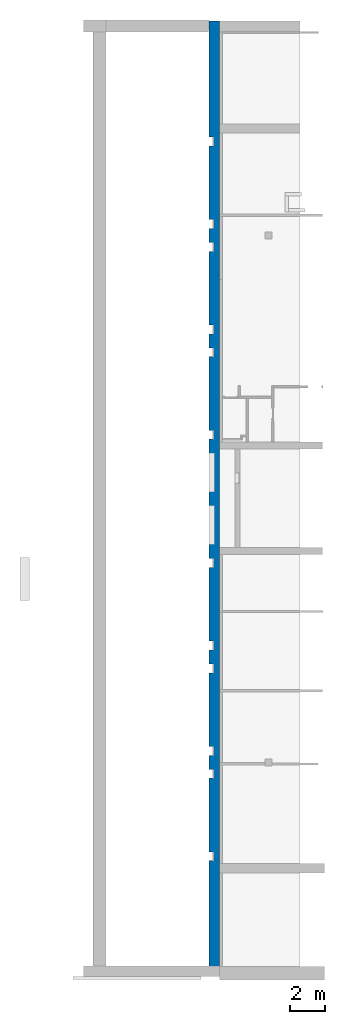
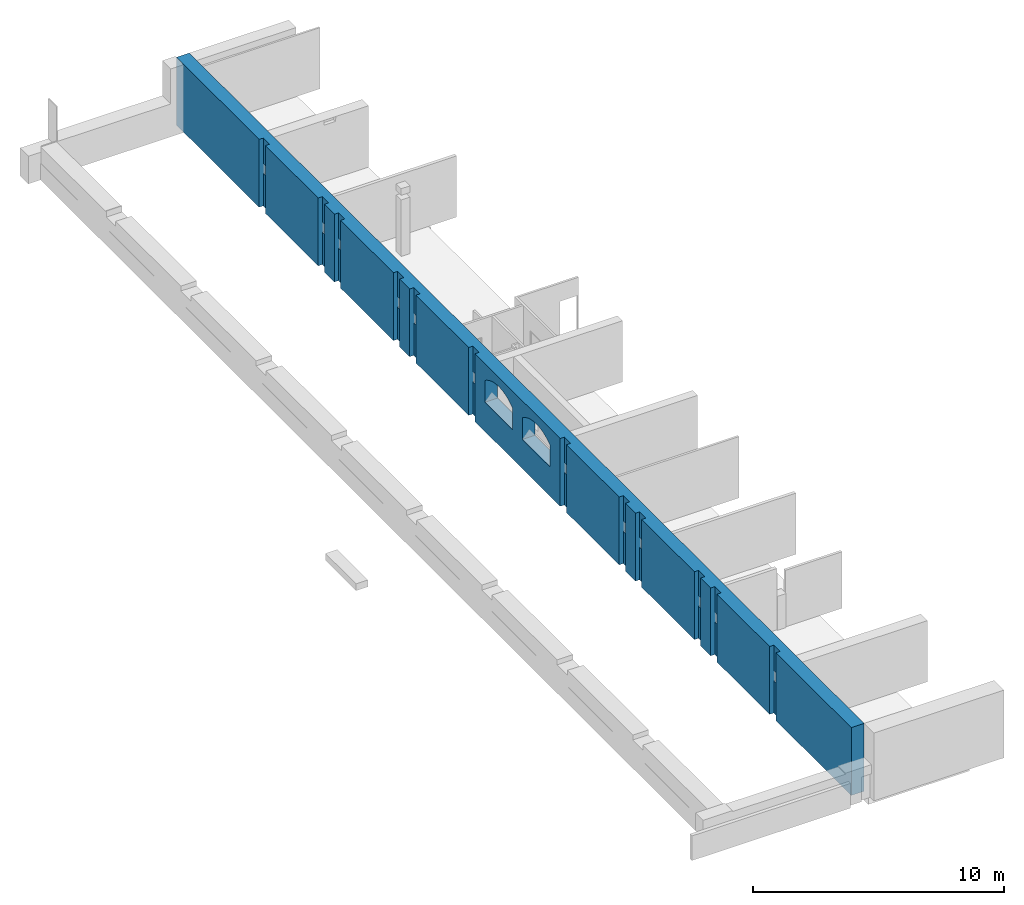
# One storey, part 6 of 11: 1 wall, 27 openings.
"""IFC2X3 building model written with IfcOpenShell, lengths in millimetres."""

from ifc_helpers import new_model, entity, si_unit, converted_unit, derived_unit, direction, frame, frame_2d, origin, origin_2d_with_axis, place, context, subcontext, project, spatial, polyline, circle_curve, parameter, trimmed, segment, composite_curve, rectangle, outline, extrude, material, layer, layer_set, layer_usage, type_object, element, save


model = new_model("IFC2X3")

# Units and contexts
model_context = context("Model", 3, precision=0.01, world=origin(), true_north=direction((6.123031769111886e-17, 1.0)))
body_context = subcontext(model_context, "Body", "Model", "MODEL_VIEW")
ifc_project = project(units=[si_unit("LENGTHUNIT", "METRE", prefix="MILLI"), si_unit("AREAUNIT", "SQUARE_METRE"), si_unit("VOLUMEUNIT", "CUBIC_METRE"), converted_unit("PLANEANGLEUNIT", "DEGREE", entity("IfcPlaneAngleMeasure", 0.017453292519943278), si_unit("PLANEANGLEUNIT", "RADIAN"), dimensions=[0, 0, 0, 0, 0, 0, 0]), si_unit("MASSUNIT", "GRAM", prefix="KILO"), derived_unit("MASSDENSITYUNIT", [(si_unit("MASSUNIT", "GRAM", prefix="KILO"), 1), (si_unit("LENGTHUNIT", "METRE"), -3)]), derived_unit("IONCONCENTRATIONUNIT", [(si_unit("MASSUNIT", "GRAM", prefix="KILO"), 1), (si_unit("LENGTHUNIT", "METRE"), -3)]), derived_unit("MOMENTOFINERTIAUNIT", [(si_unit("LENGTHUNIT", "METRE"), 4)]), si_unit("TIMEUNIT", "SECOND"), si_unit("FREQUENCYUNIT", "HERTZ"), si_unit("THERMODYNAMICTEMPERATUREUNIT", "DEGREE_CELSIUS"), derived_unit("THERMALTRANSMITTANCEUNIT", [(si_unit("MASSUNIT", "GRAM", prefix="KILO"), 1), (si_unit("THERMODYNAMICTEMPERATUREUNIT", "KELVIN"), -1), (si_unit("TIMEUNIT", "SECOND"), -3)]), derived_unit("THERMALCONDUCTANCEUNIT", [(si_unit("MASSUNIT", "GRAM", prefix="KILO"), 1), (si_unit("THERMODYNAMICTEMPERATUREUNIT", "KELVIN"), -1), (si_unit("TIMEUNIT", "SECOND"), -3), (si_unit("LENGTHUNIT", "METRE"), 1)]), derived_unit("VOLUMETRICFLOWRATEUNIT", [(si_unit("LENGTHUNIT", "METRE", prefix="DECI"), 3), (si_unit("TIMEUNIT", "SECOND"), -1)]), derived_unit("MASSFLOWRATEUNIT", [(si_unit("MASSUNIT", "GRAM", prefix="KILO"), 1), (si_unit("TIMEUNIT", "SECOND"), -1)]), derived_unit("ROTATIONALFREQUENCYUNIT", [(si_unit("TIMEUNIT", "SECOND"), -1)]), si_unit("ELECTRICCURRENTUNIT", "AMPERE"), si_unit("ELECTRICVOLTAGEUNIT", "VOLT"), si_unit("POWERUNIT", "WATT"), si_unit("FORCEUNIT", "NEWTON", prefix="KILO"), si_unit("ILLUMINANCEUNIT", "LUX"), si_unit("LUMINOUSFLUXUNIT", "LUMEN"), si_unit("LUMINOUSINTENSITYUNIT", "CANDELA"), si_unit("ENERGYUNIT", "JOULE"), derived_unit("USERDEFINED", [(si_unit("MASSUNIT", "GRAM", prefix="KILO"), -1), (si_unit("LENGTHUNIT", "METRE"), -2), (si_unit("TIMEUNIT", "SECOND"), 3), (si_unit("LUMINOUSFLUXUNIT", "LUMEN"), 1)]), derived_unit("USERDEFINED", [(si_unit("MASSUNIT", "GRAM", prefix="KILO"), 1), (si_unit("TIMEUNIT", "SECOND"), -3), (si_unit("LENGTHUNIT", "METRE"), 3), (si_unit("ELECTRICCURRENTUNIT", "AMPERE"), -2)]), derived_unit("SOUNDPOWERUNIT", [(si_unit("MASSUNIT", "GRAM", prefix="KILO"), 1), (si_unit("TIMEUNIT", "SECOND"), -3), (si_unit("LENGTHUNIT", "METRE"), 2)]), derived_unit("SOUNDPRESSUREUNIT", [(si_unit("MASSUNIT", "GRAM", prefix="KILO"), 1), (si_unit("LENGTHUNIT", "METRE"), -1), (si_unit("TIMEUNIT", "SECOND"), -2)]), derived_unit("LINEARVELOCITYUNIT", [(si_unit("LENGTHUNIT", "METRE"), 1), (si_unit("TIMEUNIT", "SECOND"), -1)]), si_unit("PRESSUREUNIT", "PASCAL"), derived_unit("USERDEFINED", [(si_unit("MASSUNIT", "GRAM", prefix="KILO"), 1), (si_unit("LENGTHUNIT", "METRE"), -2), (si_unit("TIMEUNIT", "SECOND"), -2)]), derived_unit("LINEARFORCEUNIT", [(si_unit("MASSUNIT", "GRAM", prefix="KILO"), 1), (si_unit("TIMEUNIT", "SECOND"), -2)]), derived_unit("PLANARFORCEUNIT", [(si_unit("MASSUNIT", "GRAM", prefix="KILO"), 1), (si_unit("LENGTHUNIT", "METRE"), -1), (si_unit("TIMEUNIT", "SECOND"), -2)]), derived_unit("SPECIFICHEATCAPACITYUNIT", [(si_unit("THERMODYNAMICTEMPERATUREUNIT", "KELVIN"), -1), (si_unit("LENGTHUNIT", "METRE"), 2), (si_unit("TIMEUNIT", "SECOND"), -2)]), derived_unit("HEATFLUXDENSITYUNIT", [(si_unit("MASSUNIT", "GRAM", prefix="KILO"), 1), (si_unit("TIMEUNIT", "SECOND"), -3)]), derived_unit("HEATINGVALUEUNIT", [(si_unit("LENGTHUNIT", "METRE"), 2), (si_unit("TIMEUNIT", "SECOND"), -2)]), derived_unit("VAPORPERMEABILITYUNIT", [(si_unit("LENGTHUNIT", "METRE"), -1), (si_unit("TIMEUNIT", "SECOND"), 1)]), derived_unit("DYNAMICVISCOSITYUNIT", [(si_unit("MASSUNIT", "GRAM", prefix="KILO"), 1), (si_unit("TIMEUNIT", "SECOND"), -1), (si_unit("LENGTHUNIT", "METRE"), -1)]), derived_unit("THERMALEXPANSIONCOEFFICIENTUNIT", [(si_unit("THERMODYNAMICTEMPERATUREUNIT", "KELVIN"), -1)]), derived_unit("MODULUSOFELASTICITYUNIT", [(si_unit("MASSUNIT", "GRAM", prefix="KILO"), 1), (si_unit("LENGTHUNIT", "METRE"), -1), (si_unit("TIMEUNIT", "SECOND"), -2)]), derived_unit("ISOTHERMALMOISTURECAPACITYUNIT", [(si_unit("MASSUNIT", "GRAM", prefix="KILO"), -1), (si_unit("LENGTHUNIT", "METRE"), 3)]), derived_unit("MOISTUREDIFFUSIVITYUNIT", [(si_unit("TIMEUNIT", "SECOND"), -1), (si_unit("LENGTHUNIT", "METRE"), 2)]), derived_unit("MASSPERLENGTHUNIT", [(si_unit("MASSUNIT", "GRAM", prefix="KILO"), 1), (si_unit("LENGTHUNIT", "METRE"), -1)]), derived_unit("THERMALRESISTANCEUNIT", [(si_unit("MASSUNIT", "GRAM", prefix="KILO"), -1), (si_unit("TIMEUNIT", "SECOND"), 3), (si_unit("THERMODYNAMICTEMPERATUREUNIT", "KELVIN"), 1)]), derived_unit("ACCELERATIONUNIT", [(si_unit("LENGTHUNIT", "METRE"), 1), (si_unit("TIMEUNIT", "SECOND"), -2)]), derived_unit("ANGULARVELOCITYUNIT", [(si_unit("TIMEUNIT", "SECOND"), -1), (si_unit("PLANEANGLEUNIT", "RADIAN"), 1)]), derived_unit("LINEARSTIFFNESSUNIT", [(si_unit("MASSUNIT", "GRAM", prefix="KILO"), 1), (si_unit("TIMEUNIT", "SECOND"), -2)]), derived_unit("WARPINGCONSTANTUNIT", [(si_unit("LENGTHUNIT", "METRE"), 6)]), derived_unit("LINEARMOMENTUNIT", [(si_unit("MASSUNIT", "GRAM", prefix="KILO"), 1), (si_unit("LENGTHUNIT", "METRE"), 1), (si_unit("TIMEUNIT", "SECOND"), -2)]), derived_unit("TORQUEUNIT", [(si_unit("MASSUNIT", "GRAM", prefix="KILO"), 1), (si_unit("LENGTHUNIT", "METRE"), 2), (si_unit("TIMEUNIT", "SECOND"), -2)])], contexts=[model_context])

# Site, building, storey
site_placement = place(None, origin())
site = spatial("IfcSite", under=ifc_project, at=site_placement, Name="Default", CompositionType="ELEMENT")
building_placement = place(site_placement, origin())
building = spatial("IfcBuilding", under=site, at=building_placement, Name="Eesti Rahvusraamatukogu hoone renoveerimise projekteerimistööd", CompositionType="ELEMENT")
storey_placement = place(building_placement, frame((0.0, 0.0, -1650.0)))
storey = spatial("IfcBuildingStorey", under=building, at=storey_placement, Name="-1. korrus", CompositionType="ELEMENT", Elevation=-1650.0000000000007)

# Wall, openings
ifc_material = material(Name="ol. olev materjal")
ifc_layer = layer(ifc_material, 590.0)
ifc_layer_set = layer_set([ifc_layer], Name="Basic Wall:ol. olev - 590mm")
ifc_layer_usage = layer_usage(ifc_layer_set, "AXIS2", "POSITIVE", -295.0)
wall_type = type_object("IfcWallType", Name="Basic Wall:ol. olev - 590mm", PredefinedType="STANDARD", material=ifc_layer_set)
wall_placement = place(storey_placement, frame((-36485.17342295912, 54590.0, 0.0), z_axis=(0.0, 0.0, 1.0), x_axis=(0.0, -1.0, 0.0)))
wall = element("IfcWallStandardCase", 1, at=wall_placement, inside=storey, type_object=wall_type, material=ifc_layer_usage, Name="Basic Wall:ol. olev - 590mm", ObjectType="Basic Wall:ol. olev - 590mm", context=body_context, shape_type="SweptSolid", body=[
    extrude(rectangle(XDim=53810.00000000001, YDim=589.9999999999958, at=frame_2d((26905.000000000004, 0.0), x_axis=(-1.0, 0.0))), origin(), (0.0, 0.0, 1.0), 3300.0000000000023),
])
opening_1_placement = place(wall_placement, frame((54590.0, 36485.17342295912, 1650.0)))
element("IfcOpeningElement", 2, at=opening_1_placement, cuts=wall, Name="Basic Wall:ol. olev - 590mm", ObjectType="Recess", context=body_context, shape_type="SweptSolid", body=[
    extrude(rectangle(XDim=3600.000000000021, YDim=499.999999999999, at=origin_2d_with_axis()), frame((-7040.0, -36790.0, 150.0), z_axis=(0.0, 1.0, 0.0), x_axis=(0.0, 0.0, -1.0)), (0.0, 0.0, 1.0), 199.99999999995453),
    extrude(rectangle(XDim=3600.000000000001, YDim=499.999999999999, at=frame_2d((0.0, -4.334310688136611e-12), x_axis=(1.0, 0.0))), frame((-47740.0, -36790.0, 150.0), z_axis=(0.0, 1.0, 0.0), x_axis=(0.0, 0.0, -1.0)), (0.0, 0.0, 1.0), 199.99999999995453),
    extrude(rectangle(XDim=3599.9999999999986, YDim=499.999999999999, at=frame_2d((0.0, -4.334310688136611e-12), x_axis=(1.0, 0.0))), frame((-43040.0, -36790.0, 150.0), z_axis=(0.0, 1.0, 0.0), x_axis=(0.0, 0.0, -1.0)), (0.0, 0.0, 1.0), 199.99999999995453),
    extrude(rectangle(XDim=3600.0000000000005, YDim=499.999999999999, at=frame_2d((2.2737367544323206e-13, -4.334310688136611e-12), x_axis=(1.0, 0.0))), frame((-41740.0, -36790.0, 150.0), z_axis=(0.0, 1.0, 0.0), x_axis=(0.0, 0.0, -1.0)), (0.0, 0.0, 1.0), 199.99999999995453),
    extrude(rectangle(XDim=3599.999999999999, YDim=499.999999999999, at=origin_2d_with_axis()), frame((-37040.0, -36790.0, 150.0), z_axis=(0.0, 1.0, 0.0), x_axis=(0.0, 0.0, -1.0)), (0.0, 0.0, 1.0), 199.99999999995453),
    extrude(rectangle(XDim=3599.999999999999, YDim=499.999999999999, at=origin_2d_with_axis()), frame((-35740.0, -36790.0, 150.0), z_axis=(0.0, 1.0, 0.0), x_axis=(0.0, 0.0, -1.0)), (0.0, 0.0, 1.0), 199.99999999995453),
    extrude(rectangle(XDim=3599.9999999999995, YDim=499.999999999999, at=frame_2d((-2.2737367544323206e-13, 0.0), x_axis=(1.0, 0.0))), frame((-31040.0, -36790.0, 150.0), z_axis=(0.0, 1.0, 0.0), x_axis=(0.0, 0.0, -1.0)), (0.0, 0.0, 1.0), 199.99999999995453),
    extrude(rectangle(XDim=3600.000000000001, YDim=499.999999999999, at=origin_2d_with_axis()), frame((-23740.0, -36790.0, 150.0), z_axis=(0.0, 1.0, 0.0), x_axis=(0.0, 0.0, -1.0)), (0.0, 0.0, 1.0), 199.99999999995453),
    extrude(rectangle(XDim=3600.0000000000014, YDim=500.0000000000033, at=frame_2d((-2.2737367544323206e-13, 2.1600499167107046e-12), x_axis=(1.0, 0.0))), frame((-19040.0, -36790.0, 150.0), z_axis=(0.0, 1.0, 0.0), x_axis=(0.0, 0.0, -1.0)), (0.0, 0.0, 1.0), 199.99999999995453),
    extrude(rectangle(XDim=3600.000000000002, YDim=499.999999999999, at=origin_2d_with_axis()), frame((-17740.0, -36790.0, 150.0), z_axis=(0.0, 1.0, 0.0), x_axis=(0.0, 0.0, -1.0)), (0.0, 0.0, 1.0), 199.99999999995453),
    extrude(rectangle(XDim=3600.0000000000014, YDim=500.0000000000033, at=origin_2d_with_axis()), frame((-13040.0, -36790.0, 150.0), z_axis=(0.0, 1.0, 0.0), x_axis=(0.0, 0.0, -1.0)), (0.0, 0.0, 1.0), 199.99999999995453),
    extrude(rectangle(XDim=3600.0000000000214, YDim=499.999999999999, at=origin_2d_with_axis()), frame((-11740.0, -36790.0, 150.0), z_axis=(0.0, 1.0, 0.0), x_axis=(0.0, 0.0, -1.0)), (0.0, 0.0, 1.0), 199.99999999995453),
])
opening_2_placement = place(wall_placement, frame((26792.960931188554, -447.40000000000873, 1420.0)))
element("IfcOpeningElement", 3, at=opening_2_placement, cuts=wall, Name="Basic Wall:ol. olev - 590mm", ObjectType="Opening", context=body_context, shape_type="SweptSolid", body=[
    extrude(outline(composite_curve([segment(polyline([(-530.3896667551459, -1100.0), (529.6103332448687, -1100.0)]), True, "CONTINUOUS"), segment(trimmed(circle_curve(frame_2d((-913.2676379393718, 1.0228095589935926), x_axis=(0.0, -1.0)), 1814.9788061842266), [parameter(52.653685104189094)], [parameter(127.26512850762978)], True, "PARAMETER"), True, "CONTINUOUS"), segment(polyline([(531.1690002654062, 1100.0), (-530.3896667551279, 1100.0)]), True, "CONTINUOUS"), segment(polyline([(-530.3896667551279, 1100.0), (-530.3896667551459, -1100.0)]), True, "CONTINUOUS")], self_intersect=False)), frame((-1101.5952722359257, 0.0, 530.3896667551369), z_axis=(0.0, 1.0, 0.0), x_axis=(0.0, 0.0, 1.0)), (0.0, 0.0, 1.0), 894.8000000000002),
])
opening_3_placement = place(wall_placement, frame((29781.595272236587, -447.40000000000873, 1420.0)))
element("IfcOpeningElement", 4, at=opening_3_placement, cuts=wall, Name="Basic Wall:ol. olev - 590mm", ObjectType="Opening", context=body_context, shape_type="SweptSolid", body=[
    extrude(outline(composite_curve([segment(polyline([(-530.3896667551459, -1100.0), (529.6103332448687, -1100.0)]), True, "CONTINUOUS"), segment(trimmed(circle_curve(frame_2d((-913.2676379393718, 1.0228095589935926), x_axis=(0.0, -1.0)), 1814.9788061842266), [parameter(52.653685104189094)], [parameter(127.26512850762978)], True, "PARAMETER"), True, "CONTINUOUS"), segment(polyline([(531.1690002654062, 1100.0), (-530.3896667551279, 1100.0)]), True, "CONTINUOUS"), segment(polyline([(-530.3896667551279, 1100.0), (-530.3896667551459, -1100.0)]), True, "CONTINUOUS")], self_intersect=False)), frame((-1101.5952722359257, 0.0, 530.3896667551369), z_axis=(0.0, 1.0, 0.0), x_axis=(0.0, 0.0, 1.0)), (0.0, 0.0, 1.0), 894.8000000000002),
])
opening_4_placement = place(wall_placement, frame((7100.0, 295.0, 1565.0)))
element("IfcOpeningElement", 5, at=opening_4_placement, cuts=wall, Name="SMA_W1, 1-jaotus:A-07_500x500:1", ObjectType="Opening", context=body_context, shape_type="SweptSolid", body=[
    extrude(rectangle(XDim=499.9999999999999, YDim=500.0, at=frame_2d((249.9999999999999, 250.00000000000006), x_axis=(1.0, 0.0))), frame((0.0, 0.0, 0.0), z_axis=(0.0, -1.0, 0.0), x_axis=(0.0, 0.0, 1.0)), (0.0, 0.0, 1.0), 590.0),
])
opening_5_placement = place(wall_placement, frame((11800.0, 295.0, 1565.0)))
element("IfcOpeningElement", 6, at=opening_5_placement, cuts=wall, Name="SMA_W1, 1-jaotus:A-07_500x500:1", ObjectType="Opening", context=body_context, shape_type="SweptSolid", body=[
    extrude(rectangle(XDim=499.9999999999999, YDim=499.99999999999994, at=frame_2d((250.00000000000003, 249.99999999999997), x_axis=(1.0, 0.0))), frame((0.0, 0.0, 0.0), z_axis=(0.0, -1.0, 0.0), x_axis=(0.0, 0.0, 1.0)), (0.0, 0.0, 1.0), 590.0),
])
opening_6_placement = place(wall_placement, frame((13100.0, 295.0, 1565.0)))
element("IfcOpeningElement", 7, at=opening_6_placement, cuts=wall, Name="SMA_W1, 1-jaotus:A-07_500x500:1", ObjectType="Opening", context=body_context, shape_type="SweptSolid", body=[
    extrude(rectangle(XDim=499.9999999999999, YDim=500.0, at=frame_2d((249.9999999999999, 249.99999999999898), x_axis=(1.0, 0.0))), frame((0.0, 0.0, 0.0), z_axis=(0.0, -1.0, 0.0), x_axis=(0.0, 0.0, 1.0)), (0.0, 0.0, 1.0), 590.0),
])
opening_7_placement = place(wall_placement, frame((17800.0, 295.0, 1565.0)))
element("IfcOpeningElement", 8, at=opening_7_placement, cuts=wall, Name="SMA_W1, 1-jaotus:A-07_500x500:1", ObjectType="Opening", context=body_context, shape_type="SweptSolid", body=[
    extrude(rectangle(XDim=499.9999999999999, YDim=499.99999999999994, at=frame_2d((250.00000000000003, 249.99999999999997), x_axis=(1.0, 0.0))), frame((0.0, 0.0, 0.0), z_axis=(0.0, -1.0, 0.0), x_axis=(0.0, 0.0, 1.0)), (0.0, 0.0, 1.0), 590.0),
])
opening_8_placement = place(wall_placement, frame((19100.0, 295.0, 1565.0)))
element("IfcOpeningElement", 9, at=opening_8_placement, cuts=wall, Name="SMA_W1, 1-jaotus:A-07_500x500:1", ObjectType="Opening", context=body_context, shape_type="SweptSolid", body=[
    extrude(rectangle(XDim=499.9999999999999, YDim=500.0, at=frame_2d((249.9999999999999, 249.99999999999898), x_axis=(1.0, 0.0))), frame((0.0, 0.0, 0.0), z_axis=(0.0, -1.0, 0.0), x_axis=(0.0, 0.0, 1.0)), (0.0, 0.0, 1.0), 590.0),
])
opening_9_placement = place(wall_placement, frame((23800.0, 295.0, 1565.0)))
element("IfcOpeningElement", 10, at=opening_9_placement, cuts=wall, Name="SMA_W1, 1-jaotus:A-07_500x500:1", ObjectType="Opening", context=body_context, shape_type="SweptSolid", body=[
    extrude(rectangle(XDim=499.9999999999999, YDim=499.99999999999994, at=frame_2d((250.00000000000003, 249.99999999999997), x_axis=(1.0, 0.0))), frame((0.0, 0.0, 0.0), z_axis=(0.0, -1.0, 0.0), x_axis=(0.0, 0.0, 1.0)), (0.0, 0.0, 1.0), 590.0),
])
opening_10_placement = place(wall_placement, frame((47800.0, 295.0, 1565.0)))
element("IfcOpeningElement", 11, at=opening_10_placement, cuts=wall, Name="SMA_W1, 1-jaotus:A-07_500x500:1", ObjectType="Opening", context=body_context, shape_type="SweptSolid", body=[
    extrude(rectangle(XDim=499.9999999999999, YDim=499.99999999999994, at=frame_2d((249.9999999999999, 249.99999999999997), x_axis=(1.0, 0.0))), frame((0.0, 0.0, 0.0), z_axis=(0.0, -1.0, 0.0), x_axis=(0.0, 0.0, 1.0)), (0.0, 0.0, 1.0), 590.0),
])
opening_11_placement = place(wall_placement, frame((43100.0, 295.0, 1565.0)))
element("IfcOpeningElement", 12, at=opening_11_placement, cuts=wall, Name="SMA_W1, 1-jaotus:A-07_500x500:1", ObjectType="Opening", context=body_context, shape_type="SweptSolid", body=[
    extrude(rectangle(XDim=499.9999999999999, YDim=500.0, at=frame_2d((250.00000000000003, 249.99999999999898), x_axis=(1.0, 0.0))), frame((0.0, 0.0, 0.0), z_axis=(0.0, -1.0, 0.0), x_axis=(0.0, 0.0, 1.0)), (0.0, 0.0, 1.0), 590.0),
])
opening_12_placement = place(wall_placement, frame((41800.0, 295.0, 1565.0)))
element("IfcOpeningElement", 13, at=opening_12_placement, cuts=wall, Name="SMA_W1, 1-jaotus:A-07_500x500:1", ObjectType="Opening", context=body_context, shape_type="SweptSolid", body=[
    extrude(rectangle(XDim=499.9999999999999, YDim=499.99999999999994, at=frame_2d((249.9999999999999, 249.99999999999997), x_axis=(1.0, 0.0))), frame((0.0, 0.0, 0.0), z_axis=(0.0, -1.0, 0.0), x_axis=(0.0, 0.0, 1.0)), (0.0, 0.0, 1.0), 590.0),
])
opening_13_placement = place(wall_placement, frame((37100.0, 295.0, 1565.0)))
element("IfcOpeningElement", 14, at=opening_13_placement, cuts=wall, Name="SMA_W1, 1-jaotus:A-07_500x500:1", ObjectType="Opening", context=body_context, shape_type="SweptSolid", body=[
    extrude(rectangle(XDim=499.9999999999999, YDim=500.0, at=frame_2d((250.00000000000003, 249.99999999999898), x_axis=(1.0, 0.0))), frame((0.0, 0.0, 0.0), z_axis=(0.0, -1.0, 0.0), x_axis=(0.0, 0.0, 1.0)), (0.0, 0.0, 1.0), 590.0),
])
opening_14_placement = place(wall_placement, frame((35800.0, 295.0, 1565.0)))
element("IfcOpeningElement", 15, at=opening_14_placement, cuts=wall, Name="SMA_W1, 1-jaotus:A-07_500x500:1", ObjectType="Opening", context=body_context, shape_type="SweptSolid", body=[
    extrude(rectangle(XDim=499.9999999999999, YDim=499.99999999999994, at=frame_2d((250.00000000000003, 249.99999999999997), x_axis=(1.0, 0.0))), frame((0.0, 0.0, 0.0), z_axis=(0.0, -1.0, 0.0), x_axis=(0.0, 0.0, 1.0)), (0.0, 0.0, 1.0), 590.0),
])
opening_15_placement = place(wall_placement, frame((54590.0, 36485.17342295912, 1565.0), z_axis=(0.0, 0.0, 1.0), x_axis=(0.0, 1.0, 0.0)))
element("IfcOpeningElement", 16, at=opening_15_placement, cuts=wall, Name="Basic Wall:ol. olev - 590mm", ObjectType="Opening", context=body_context, shape_type="SweptSolid", body=[
    extrude(rectangle(XDim=499.9999999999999, YDim=499.999999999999, at=frame_2d((1.4210854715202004e-14, 0.0), x_axis=(1.0, 0.0))), frame((-37714.17342295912, 23740.0, 250.0), z_axis=(1.0, 0.0, 0.0), x_axis=(0.0, 0.0, 1.0)), (0.0, 0.0, 1.0), 3048.0),
])
opening_16_placement = place(wall_placement, frame((54590.0, 36485.17342295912, 1565.0), z_axis=(0.0, 0.0, 1.0), x_axis=(0.0, 1.0, 0.0)))
element("IfcOpeningElement", 17, at=opening_16_placement, cuts=wall, Name="Basic Wall:ol. olev - 590mm", ObjectType="Opening", context=body_context, shape_type="SweptSolid", body=[
    extrude(rectangle(XDim=499.9999999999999, YDim=500.00000000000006, at=frame_2d((0.0, 5.400124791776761e-13), x_axis=(1.0, 0.0))), frame((-37714.17342295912, 7040.0, 250.0), z_axis=(1.0, 0.0, 0.0), x_axis=(0.0, 0.0, 1.0)), (0.0, 0.0, 1.0), 3048.0),
])
opening_17_placement = place(wall_placement, frame((54590.0, 36485.17342295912, 1565.0), z_axis=(0.0, 0.0, 1.0), x_axis=(0.0, 1.0, 0.0)))
element("IfcOpeningElement", 18, at=opening_17_placement, cuts=wall, Name="Basic Wall:ol. olev - 590mm", ObjectType="Opening", context=body_context, shape_type="SweptSolid", body=[
    extrude(rectangle(XDim=499.9999999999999, YDim=500.00000000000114, at=frame_2d((1.0800249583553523e-12, 0.0), x_axis=(0.0, 1.0))), frame((-37714.17342295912, 11740.0, 250.0), z_axis=(1.0, 0.0, 0.0), x_axis=(0.0, 1.0, 0.0)), (0.0, 0.0, 1.0), 3048.0),
])
opening_18_placement = place(wall_placement, frame((54590.0, 36485.17342295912, 1565.0), z_axis=(0.0, 0.0, 1.0), x_axis=(0.0, 1.0, 0.0)))
element("IfcOpeningElement", 19, at=opening_18_placement, cuts=wall, Name="Basic Wall:ol. olev - 590mm", ObjectType="Opening", context=body_context, shape_type="SweptSolid", body=[
    extrude(rectangle(XDim=499.9999999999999, YDim=499.999999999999, at=origin_2d_with_axis()), frame((-37714.17342295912, 13040.0, 250.0), z_axis=(1.0, 0.0, 0.0), x_axis=(0.0, 0.0, 1.0)), (0.0, 0.0, 1.0), 3048.0),
])
opening_19_placement = place(wall_placement, frame((54590.0, 36485.17342295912, 1565.0), z_axis=(0.0, 0.0, 1.0), x_axis=(0.0, 1.0, 0.0)))
element("IfcOpeningElement", 20, at=opening_19_placement, cuts=wall, Name="Basic Wall:ol. olev - 590mm", ObjectType="Opening", context=body_context, shape_type="SweptSolid", body=[
    extrude(rectangle(XDim=499.9999999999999, YDim=500.00000000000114, at=frame_2d((-1.0800249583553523e-12, 0.0), x_axis=(0.0, 1.0))), frame((-37714.17342295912, 17740.0, 250.0), z_axis=(1.0, 0.0, 0.0), x_axis=(0.0, 1.0, 0.0)), (0.0, 0.0, 1.0), 3048.0),
])
opening_20_placement = place(wall_placement, frame((54590.0, 36485.17342295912, 1565.0), z_axis=(0.0, 0.0, 1.0), x_axis=(0.0, 1.0, 0.0)))
element("IfcOpeningElement", 21, at=opening_20_placement, cuts=wall, Name="Basic Wall:ol. olev - 590mm", ObjectType="Opening", context=body_context, shape_type="SweptSolid", body=[
    extrude(rectangle(XDim=499.9999999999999, YDim=499.999999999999, at=origin_2d_with_axis()), frame((-37714.17342295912, 19040.0, 250.0), z_axis=(1.0, 0.0, 0.0), x_axis=(0.0, 0.0, 1.0)), (0.0, 0.0, 1.0), 3048.0),
])
opening_21_placement = place(wall_placement, frame((54590.0, 36485.17342295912, 1565.0), z_axis=(0.0, 0.0, 1.0), x_axis=(0.0, 1.0, 0.0)))
element("IfcOpeningElement", 22, at=opening_21_placement, cuts=wall, Name="Basic Wall:ol. olev - 590mm", ObjectType="Opening", context=body_context, shape_type="SweptSolid", body=[
    extrude(rectangle(XDim=499.9999999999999, YDim=499.999999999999, at=origin_2d_with_axis()), frame((-37714.17342295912, 31040.0, 250.0), z_axis=(1.0, 0.0, 0.0), x_axis=(0.0, 0.0, 1.0)), (0.0, 0.0, 1.0), 3048.0),
])
opening_22_placement = place(wall_placement, frame((54590.0, 36485.17342295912, 1565.0), z_axis=(0.0, 0.0, 1.0), x_axis=(0.0, 1.0, 0.0)))
element("IfcOpeningElement", 23, at=opening_22_placement, cuts=wall, Name="Basic Wall:ol. olev - 590mm", ObjectType="Opening", context=body_context, shape_type="SweptSolid", body=[
    extrude(rectangle(XDim=499.9999999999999, YDim=499.999999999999, at=frame_2d((0.0, 0.0), x_axis=(0.0, 1.0))), frame((-37714.17342295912, 35740.0, 250.0), z_axis=(1.0, 0.0, 0.0), x_axis=(0.0, 1.0, 0.0)), (0.0, 0.0, 1.0), 3048.0),
])
opening_23_placement = place(wall_placement, frame((54590.0, 36485.17342295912, 1565.0), z_axis=(0.0, 0.0, 1.0), x_axis=(0.0, 1.0, 0.0)))
element("IfcOpeningElement", 24, at=opening_23_placement, cuts=wall, Name="Basic Wall:ol. olev - 590mm", ObjectType="Opening", context=body_context, shape_type="SweptSolid", body=[
    extrude(rectangle(XDim=499.9999999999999, YDim=499.999999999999, at=origin_2d_with_axis()), frame((-37714.17342295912, 37040.0, 250.0), z_axis=(1.0, 0.0, 0.0), x_axis=(0.0, 0.0, 1.0)), (0.0, 0.0, 1.0), 3048.0),
])
opening_24_placement = place(wall_placement, frame((54590.0, 36485.17342295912, 1565.0), z_axis=(0.0, 0.0, 1.0), x_axis=(0.0, 1.0, 0.0)))
element("IfcOpeningElement", 25, at=opening_24_placement, cuts=wall, Name="Basic Wall:ol. olev - 590mm", ObjectType="Opening", context=body_context, shape_type="SweptSolid", body=[
    extrude(rectangle(XDim=499.9999999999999, YDim=499.999999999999, at=frame_2d((-4.334310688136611e-12, 0.0), x_axis=(0.0, 1.0))), frame((-37714.17342295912, 41740.0, 250.0), z_axis=(1.0, 0.0, 0.0), x_axis=(0.0, 1.0, 0.0)), (0.0, 0.0, 1.0), 3048.0),
])
opening_25_placement = place(wall_placement, frame((54590.0, 36485.17342295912, 1565.0), z_axis=(0.0, 0.0, 1.0), x_axis=(0.0, 1.0, 0.0)))
element("IfcOpeningElement", 26, at=opening_25_placement, cuts=wall, Name="Basic Wall:ol. olev - 590mm", ObjectType="Opening", context=body_context, shape_type="SweptSolid", body=[
    extrude(rectangle(XDim=499.9999999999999, YDim=499.999999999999, at=frame_2d((0.0, -4.334310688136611e-12), x_axis=(1.0, 0.0))), frame((-37714.17342295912, 43040.0, 250.0), z_axis=(1.0, 0.0, 0.0), x_axis=(0.0, 0.0, 1.0)), (0.0, 0.0, 1.0), 3048.0),
])
opening_26_placement = place(wall_placement, frame((54590.0, 36485.17342295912, 1565.0), z_axis=(0.0, 0.0, 1.0), x_axis=(0.0, 1.0, 0.0)))
element("IfcOpeningElement", 27, at=opening_26_placement, cuts=wall, Name="Basic Wall:ol. olev - 590mm", ObjectType="Opening", context=body_context, shape_type="SweptSolid", body=[
    extrude(rectangle(XDim=499.9999999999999, YDim=499.999999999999, at=frame_2d((-4.334310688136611e-12, 0.0), x_axis=(0.0, 1.0))), frame((-37714.17342295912, 47740.0, 250.0), z_axis=(1.0, 0.0, 0.0), x_axis=(0.0, 1.0, 0.0)), (0.0, 0.0, 1.0), 3048.0),
])
opening_27_placement = place(wall_placement, frame((31100.0, 295.0, 1565.0)))
element("IfcOpeningElement", 28, at=opening_27_placement, cuts=wall, Name="SMA_W1, 1-jaotus:A-07_500x500:1", ObjectType="Opening", context=body_context, shape_type="SweptSolid", body=[
    extrude(rectangle(XDim=499.9999999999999, YDim=499.99999999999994, at=frame_2d((250.00000000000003, 249.99999999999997), x_axis=(1.0, 0.0))), frame((0.0, 0.0, 0.0), z_axis=(0.0, -1.0, 0.0), x_axis=(0.0, 0.0, 1.0)), (0.0, 0.0, 1.0), 590.0),
])

save(model, "model.ifc")
